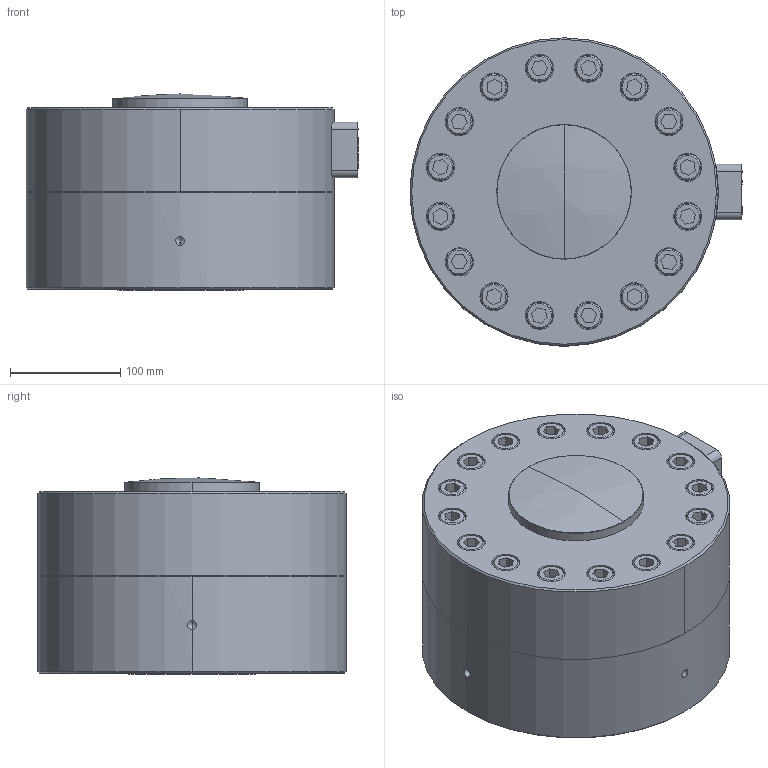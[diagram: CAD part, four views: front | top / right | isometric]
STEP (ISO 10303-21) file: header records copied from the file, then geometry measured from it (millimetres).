
FILE_DESCRIPTION (( 'STEP AP203' ), '1' );
FILE_NAME ('Interface 1243-1350KN thru -1800KN-B.STEP', '2011-06-06T22:35:06', ( ' ' ), ( '' ), 'SwSTEP 2.0', 'SolidWorks 2002349', '' );
FILE_SCHEMA (( 'CONFIG_CONTROL_DESIGN' ));
Length unit declared in the file: inch
Products named in the file (1): Interface 1243-1350KN thru -1800KN-B
Bounding box: 300.94 x 279.3 x 177.75 mm (x, y, z)
Volume: 10130146.9 mm3; surface area: 335707.6 mm2
Topology: 1 solids, 1 shells, 549 faces, 1294 edges, 826 vertices
Faces by surface type: plane 251, cylinder 207, cone 60, bspline 28, sphere 3
Entity records: 17604 total; most frequent: CARTESIAN_POINT 5057, ORIENTED_EDGE 2572, DIRECTION 2558, EDGE_CURVE 1286, AXIS2_PLACEMENT_3D 943, VERTEX_POINT 826, LINE 672, VECTOR 672
